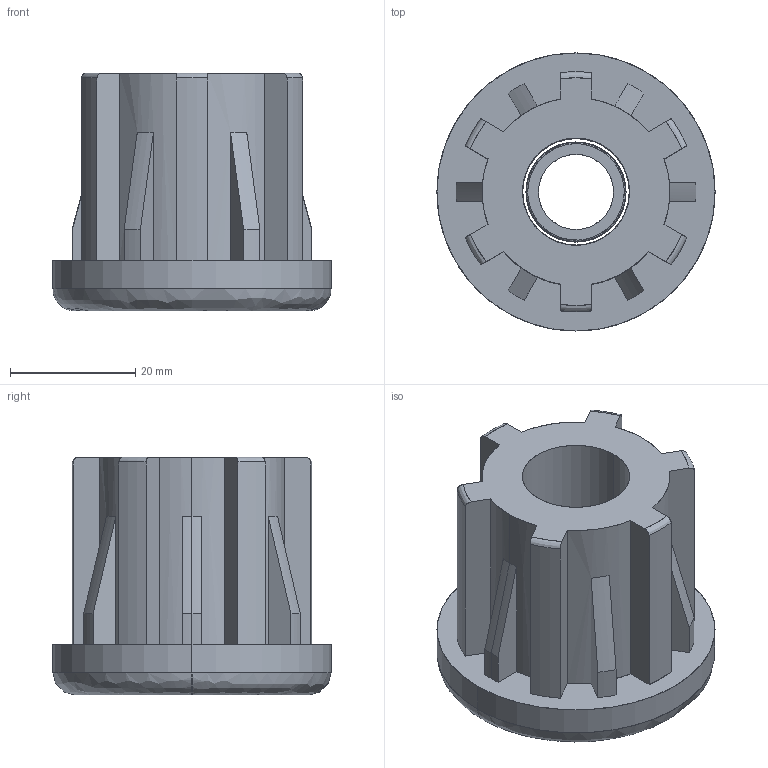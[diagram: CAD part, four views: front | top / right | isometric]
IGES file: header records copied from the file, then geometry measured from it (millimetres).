
Start section: SolidWorks IGES file using analytic representation for surfaces
Global section: file name: Y:\Tecnodin, S.L\PLAPP-Dirección - Documentos\General\Models CAD\Actiby\42006442212.IGS; native system: SolidWorks 2018; preprocessor: SolidWorks 2018; author: GerPro; date: 200225.180432; units: millimetre
Bounding box: 44.45 x 44.45 x 38 mm (x, y, z)
Surface area: 11628 mm2 (no closed solid volume)
Topology: 0 solids, 0 shells, 89 faces, 976 edges, 976 vertices
Faces by surface type: revolution 48, bspline 41
